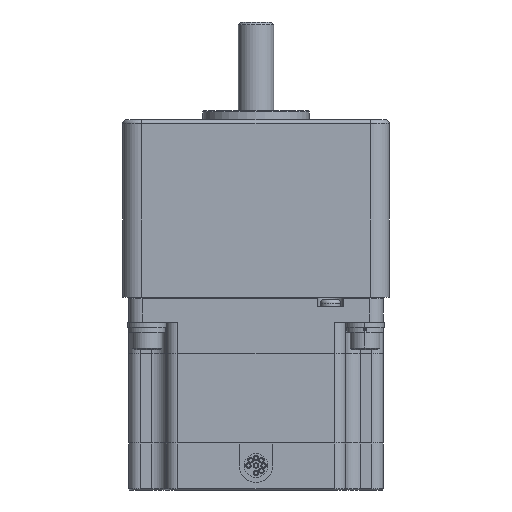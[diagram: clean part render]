
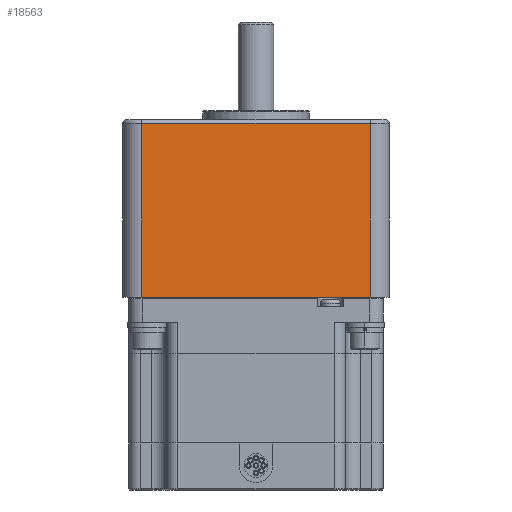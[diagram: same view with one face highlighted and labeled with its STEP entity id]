
A CAD part, front view. The second image highlights one B-rep face of the part: STEP entity #18563.
In plain terms, the highlighted planar face has unit normal (0, -1, 0).
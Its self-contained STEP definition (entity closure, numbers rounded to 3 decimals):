
#13266 = CARTESIAN_POINT ( 'NONE',  ( -38.608, -44.958, 0. ) ) ;
#13268 = DIRECTION ( 'NONE',  ( 1., 0., 0. ) ) ;
#13269 = VECTOR ( 'NONE', #13268, 1000. ) ;
#13270 = CARTESIAN_POINT ( 'NONE',  ( -38.608, -44.958, 0. ) ) ;
#13277 = LINE ( 'NONE', #13270, #13269 ) ;
#13353 = CARTESIAN_POINT ( 'NONE',  ( 38.608, -44.958, 0. ) ) ;
#13867 = CARTESIAN_POINT ( 'NONE',  ( 38.608, -44.958, 58.73 ) ) ;
#13909 = VECTOR ( 'NONE', #13925, 1000. ) ;
#13925 = DIRECTION ( 'NONE',  ( -1., 0., 0. ) ) ;
#13927 = CARTESIAN_POINT ( 'NONE',  ( -38.608, -44.958, 58.73 ) ) ;
#13930 = CARTESIAN_POINT ( 'NONE',  ( -38.608, -44.958, 58.73 ) ) ;
#13931 = LINE ( 'NONE', #13930, #13909 ) ;
#13988 = VECTOR ( 'NONE', #14022, 1000. ) ;
#13991 = CARTESIAN_POINT ( 'NONE',  ( 38.608, -44.958, 60. ) ) ;
#13995 = DIRECTION ( 'NONE',  ( 0., 0., -1. ) ) ;
#13996 = VECTOR ( 'NONE', #13995, 1000. ) ;
#14003 = CARTESIAN_POINT ( 'NONE',  ( -38.608, -44.958, 60. ) ) ;
#14004 = LINE ( 'NONE', #14003, #13996 ) ;
#14022 = DIRECTION ( 'NONE',  ( 0., 0., -1. ) ) ;
#14028 = LINE ( 'NONE', #13991, #13988 ) ;
#15031 = PLANE ( 'NONE',  #15101 ) ;
#15097 = DIRECTION ( 'NONE',  ( 0., 0., 1. ) ) ;
#15099 = DIRECTION ( 'NONE',  ( 0., 1., 0. ) ) ;
#15100 = CARTESIAN_POINT ( 'NONE',  ( -38.608, -44.958, 60. ) ) ;
#15101 = AXIS2_PLACEMENT_3D ( 'NONE', #15100, #15099, #15097 ) ;
#15141 = FACE_OUTER_BOUND ( 'NONE', #18561, .T. ) ;
#18119 = EDGE_CURVE ( 'NONE', #18121, #18151, #13277, .T. ) ;
#18121 = VERTEX_POINT ( 'NONE', #13266 ) ;
#18151 = VERTEX_POINT ( 'NONE', #13353 ) ;
#18497 = ORIENTED_EDGE ( 'NONE', *, *, #18526, .T. ) ;
#18506 = VERTEX_POINT ( 'NONE', #13867 ) ;
#18507 = EDGE_CURVE ( 'NONE', #18506, #18508, #13931, .T. ) ;
#18508 = VERTEX_POINT ( 'NONE', #13927 ) ;
#18526 = EDGE_CURVE ( 'NONE', #18508, #18121, #14004, .T. ) ;
#18527 = ORIENTED_EDGE ( 'NONE', *, *, #18507, .T. ) ;
#18533 = ORIENTED_EDGE ( 'NONE', *, *, #18534, .F. ) ;
#18534 = EDGE_CURVE ( 'NONE', #18506, #18151, #14028, .T. ) ;
#18547 = ORIENTED_EDGE ( 'NONE', *, *, #18119, .T. ) ;
#18561 = EDGE_LOOP ( 'NONE', ( #18533, #18527, #18497, #18547 ) ) ;
#18563 = ADVANCED_FACE ( 'NONE', ( #15141 ), #15031, .F. ) ;
